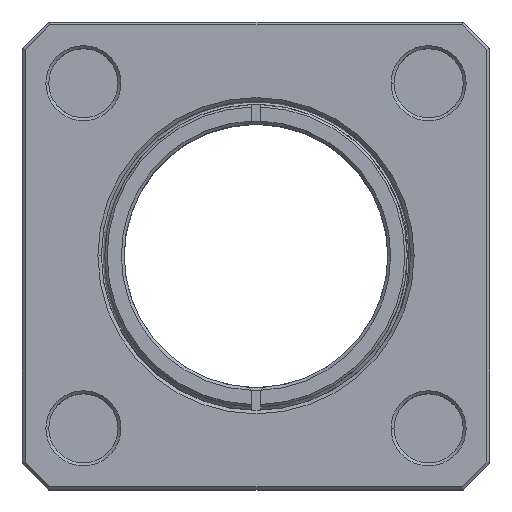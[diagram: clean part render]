
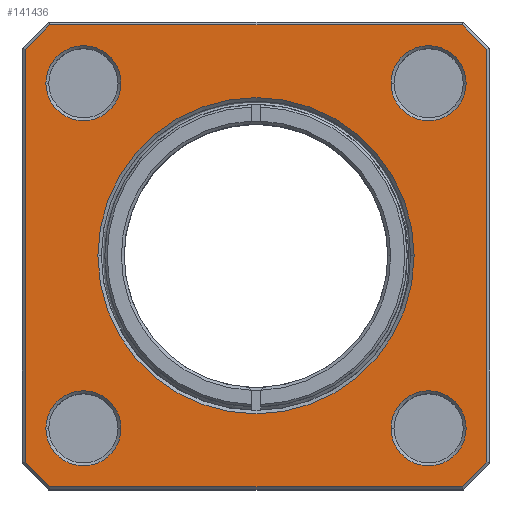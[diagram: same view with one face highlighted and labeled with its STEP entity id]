
A CAD part, top view. The second image highlights one B-rep face of the part: STEP entity #141436.
In plain terms, the highlighted planar face has unit normal (0, 0, 1).
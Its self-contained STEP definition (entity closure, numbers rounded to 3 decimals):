
#126880=DIRECTION('',(-0.707,-0.707,0.));
#126881=VECTOR('',#126880,3.022);
#126882=CARTESIAN_POINT('',(10.497,-12.856,
14.253));
#126883=LINE('',#126882,#126881);
#126900=DIRECTION('',(-1.,0.,0.));
#126901=VECTOR('',#126900,35.858);
#126902=CARTESIAN_POINT('',(8.359,-14.994,
14.253));
#126903=LINE('',#126902,#126901);
#126912=DIRECTION('',(-0.707,0.707,0.));
#126913=VECTOR('',#126912,3.022);
#126914=CARTESIAN_POINT('',(-27.498,-14.994,
14.253));
#126915=LINE('',#126914,#126913);
#126924=DIRECTION('',(0.,1.,0.));
#126925=VECTOR('',#126924,35.858);
#126926=CARTESIAN_POINT('',(-29.635,-12.856,
14.253));
#126927=LINE('',#126926,#126925);
#126928=DIRECTION('',(0.707,0.707,0.));
#126929=VECTOR('',#126928,3.022);
#126930=CARTESIAN_POINT('',(-29.635,23.001,
14.253));
#126931=LINE('',#126930,#126929);
#126936=DIRECTION('',(1.,0.,0.));
#126937=VECTOR('',#126936,35.858);
#126938=CARTESIAN_POINT('',(-27.498,25.138,
14.253));
#126939=LINE('',#126938,#126937);
#126948=DIRECTION('',(0.707,-0.707,0.));
#126949=VECTOR('',#126948,3.022);
#126950=CARTESIAN_POINT('',(8.359,25.138,
14.253));
#126951=LINE('',#126950,#126949);
#126960=DIRECTION('',(0.,-1.,0.));
#126961=VECTOR('',#126960,35.858);
#126962=CARTESIAN_POINT('',(10.497,23.001,
14.253));
#126963=LINE('',#126962,#126961);
#126972=CARTESIAN_POINT('',(5.431,20.072,
14.253));
#126973=DIRECTION('',(0.,0.,-1.));
#126974=DIRECTION('',(1.,0.,0.));
#126975=AXIS2_PLACEMENT_3D('',#126972,#126973,#126974);
#126977=CARTESIAN_POINT('',(5.431,20.072,
14.253));
#126978=DIRECTION('',(0.,0.,-1.));
#126979=DIRECTION('',(-1.,0.,0.));
#126980=AXIS2_PLACEMENT_3D('',#126977,#126978,#126979);
#126982=CARTESIAN_POINT('',(5.431,-9.928,
14.253));
#126983=DIRECTION('',(0.,0.,-1.));
#126984=DIRECTION('',(1.,0.,0.));
#126985=AXIS2_PLACEMENT_3D('',#126982,#126983,#126984);
#126987=CARTESIAN_POINT('',(5.431,-9.928,
14.253));
#126988=DIRECTION('',(0.,0.,-1.));
#126989=DIRECTION('',(-1.,0.,0.));
#126990=AXIS2_PLACEMENT_3D('',#126987,#126988,#126989);
#126992=CARTESIAN_POINT('',(-24.569,-9.928,
14.253));
#126993=DIRECTION('',(0.,0.,-1.));
#126994=DIRECTION('',(1.,0.,0.));
#126995=AXIS2_PLACEMENT_3D('',#126992,#126993,#126994);
#126997=CARTESIAN_POINT('',(-24.569,-9.928,
14.253));
#126998=DIRECTION('',(0.,0.,-1.));
#126999=DIRECTION('',(-1.,0.,0.));
#127000=AXIS2_PLACEMENT_3D('',#126997,#126998,#126999);
#127002=CARTESIAN_POINT('',(-24.569,20.072,
14.253));
#127003=DIRECTION('',(0.,0.,-1.));
#127004=DIRECTION('',(1.,0.,0.));
#127005=AXIS2_PLACEMENT_3D('',#127002,#127003,#127004);
#127007=CARTESIAN_POINT('',(-24.569,20.072,
14.253));
#127008=DIRECTION('',(0.,0.,-1.));
#127009=DIRECTION('',(-1.,0.,0.));
#127010=AXIS2_PLACEMENT_3D('',#127007,#127008,#127009);
#127012=CARTESIAN_POINT('',(-9.569,5.072,
14.253));
#127013=DIRECTION('',(0.,0.,1.));
#127014=DIRECTION('',(1.,0.,0.));
#127015=AXIS2_PLACEMENT_3D('',#127012,#127013,#127014);
#127017=CARTESIAN_POINT('',(-9.569,5.072,
14.253));
#127018=DIRECTION('',(0.,0.,1.));
#127019=DIRECTION('',(-1.,0.,0.));
#127020=AXIS2_PLACEMENT_3D('',#127017,#127018,#127019);
#140244=CARTESIAN_POINT('',(-27.498,-14.994,
14.253));
#140245=CARTESIAN_POINT('',(-29.635,-12.856,
14.253));
#140246=VERTEX_POINT('',#140244);
#140247=VERTEX_POINT('',#140245);
#140258=CARTESIAN_POINT('',(-27.833,-9.928,
14.253));
#140259=CARTESIAN_POINT('',(-21.306,-9.928,
14.253));
#140260=VERTEX_POINT('',#140258);
#140261=VERTEX_POINT('',#140259);
#140276=CARTESIAN_POINT('',(-29.635,23.001,
14.253));
#140277=VERTEX_POINT('',#140276);
#140314=CARTESIAN_POINT('',(-27.498,25.138,
14.253));
#140315=CARTESIAN_POINT('',(8.359,25.138,
14.253));
#140316=VERTEX_POINT('',#140314);
#140317=VERTEX_POINT('',#140315);
#140325=CARTESIAN_POINT('',(10.497,23.001,
14.253));
#140327=VERTEX_POINT('',#140325);
#140340=CARTESIAN_POINT('',(2.167,20.072,
14.253));
#140341=CARTESIAN_POINT('',(8.694,20.072,
14.253));
#140342=VERTEX_POINT('',#140340);
#140343=VERTEX_POINT('',#140341);
#140376=CARTESIAN_POINT('',(8.694,-9.928,
14.253));
#140377=CARTESIAN_POINT('',(2.167,-9.928,
14.253));
#140378=VERTEX_POINT('',#140376);
#140379=VERTEX_POINT('',#140377);
#140380=CARTESIAN_POINT('',(8.359,-14.994,
14.253));
#140381=VERTEX_POINT('',#140380);
#140418=CARTESIAN_POINT('',(-27.833,20.072,
14.253));
#140419=CARTESIAN_POINT('',(-21.306,20.072,
14.253));
#140420=VERTEX_POINT('',#140418);
#140421=VERTEX_POINT('',#140419);
#140424=CARTESIAN_POINT('',(10.497,-12.856,
14.253));
#140425=VERTEX_POINT('',#140424);
#140982=CARTESIAN_POINT('',(4.175,5.072,
14.253));
#140983=CARTESIAN_POINT('',(-23.314,5.072,
14.253));
#140984=VERTEX_POINT('',#140982);
#140985=VERTEX_POINT('',#140983);
#141391=CARTESIAN_POINT('',(-29.889,-15.248,
14.253));
#141392=DIRECTION('',(0.,0.,1.));
#141393=DIRECTION('',(1.,0.,0.));
#141394=AXIS2_PLACEMENT_3D('',#141391,#141392,#141393);
#141395=PLANE('',#141394);
#141396=ORIENTED_EDGE('',*,*,#141357,.T.);
#141397=ORIENTED_EDGE('',*,*,#141371,.T.);
#141398=ORIENTED_EDGE('',*,*,#141384,.T.);
#141399=ORIENTED_EDGE('',*,*,#141286,.T.);
#141400=ORIENTED_EDGE('',*,*,#141303,.T.);
#141401=ORIENTED_EDGE('',*,*,#141317,.T.);
#141402=ORIENTED_EDGE('',*,*,#141331,.T.);
#141403=ORIENTED_EDGE('',*,*,#141343,.T.);
#141404=EDGE_LOOP('',(#141396,#141397,#141398,#141399,#141400,#141401,#141402,
#141403));
#141405=FACE_OUTER_BOUND('',#141404,.F.);
#141407=ORIENTED_EDGE('',*,*,#141406,.F.);
#141409=ORIENTED_EDGE('',*,*,#141408,.F.);
#141410=EDGE_LOOP('',(#141407,#141409));
#141411=FACE_BOUND('',#141410,.F.);
#141413=ORIENTED_EDGE('',*,*,#141412,.F.);
#141415=ORIENTED_EDGE('',*,*,#141414,.F.);
#141416=EDGE_LOOP('',(#141413,#141415));
#141417=FACE_BOUND('',#141416,.F.);
#141419=ORIENTED_EDGE('',*,*,#141418,.F.);
#141421=ORIENTED_EDGE('',*,*,#141420,.F.);
#141422=EDGE_LOOP('',(#141419,#141421));
#141423=FACE_BOUND('',#141422,.F.);
#141425=ORIENTED_EDGE('',*,*,#141424,.F.);
#141427=ORIENTED_EDGE('',*,*,#141426,.F.);
#141428=EDGE_LOOP('',(#141425,#141427));
#141429=FACE_BOUND('',#141428,.F.);
#141431=ORIENTED_EDGE('',*,*,#141430,.T.);
#141433=ORIENTED_EDGE('',*,*,#141432,.T.);
#141434=EDGE_LOOP('',(#141431,#141433));
#141435=FACE_BOUND('',#141434,.F.);
#141436=ADVANCED_FACE('',(#141405,#141411,#141417,#141423,#141429,#141435),
#141395,.T.);
#126976=CIRCLE('',#126975,3.264);
#126981=CIRCLE('',#126980,3.264);
#126986=CIRCLE('',#126985,3.264);
#126991=CIRCLE('',#126990,3.264);
#126996=CIRCLE('',#126995,3.264);
#127001=CIRCLE('',#127000,3.264);
#127006=CIRCLE('',#127005,3.264);
#127011=CIRCLE('',#127010,3.264);
#127016=CIRCLE('',#127015,13.745);
#127021=CIRCLE('',#127020,13.745);
#141286=EDGE_CURVE('',#140425,#140381,#126883,.T.);
#141303=EDGE_CURVE('',#140381,#140246,#126903,.T.);
#141317=EDGE_CURVE('',#140246,#140247,#126915,.T.);
#141331=EDGE_CURVE('',#140247,#140277,#126927,.T.);
#141343=EDGE_CURVE('',#140277,#140316,#126931,.T.);
#141357=EDGE_CURVE('',#140316,#140317,#126939,.T.);
#141371=EDGE_CURVE('',#140317,#140327,#126951,.T.);
#141384=EDGE_CURVE('',#140327,#140425,#126963,.T.);
#141406=EDGE_CURVE('',#140343,#140342,#126976,.T.);
#141408=EDGE_CURVE('',#140342,#140343,#126981,.T.);
#141412=EDGE_CURVE('',#140378,#140379,#126986,.T.);
#141414=EDGE_CURVE('',#140379,#140378,#126991,.T.);
#141418=EDGE_CURVE('',#140261,#140260,#126996,.T.);
#141420=EDGE_CURVE('',#140260,#140261,#127001,.T.);
#141424=EDGE_CURVE('',#140421,#140420,#127006,.T.);
#141426=EDGE_CURVE('',#140420,#140421,#127011,.T.);
#141430=EDGE_CURVE('',#140984,#140985,#127016,.T.);
#141432=EDGE_CURVE('',#140985,#140984,#127021,.T.);
